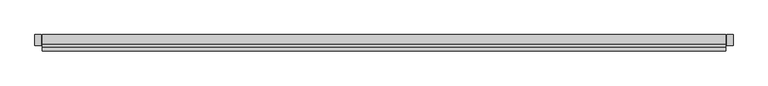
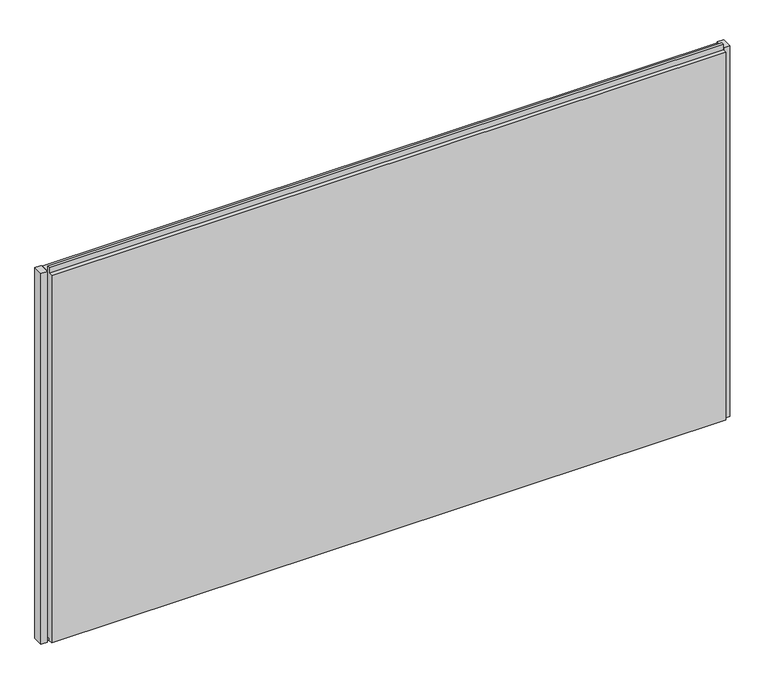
"""IFC4 building model written with IfcOpenShell, lengths in millimetres: plate geometry, Trimo_Qbiss Screen_Normal Panel-HORIZONTAL : HR - FB-F."""

import ifcopenshell
import ifcopenshell.guid

model = None  # the IFC model being written
_history = None  # IfcOwnerHistory: only IFC2X3 demands one
_inside = {}  # id of a spatial element -> (the spatial element, [elements in it])
_under = {}  # id of a project, library or spatial element -> (it, [spatial elements below it])
_declared = {}  # id of a project -> (the project, [libraries it declares])
_typed = {}  # id of a type object -> (the type object, [elements of that type])
_made_of = {}  # id of a material, layer set ... -> (it, [elements and type objects made of it])


def new_model(schema):
    """Start an empty IFC model of exactly this schema.

    Asked for "IFC4X3", IfcOpenShell would pick the latest addendum, in which some entities
    have other attributes; the version numbers below select the first issue.
    IFC2X3 requires an IfcOwnerHistory on every rooted entity: one is made here for all.
    """
    global model, _history
    if schema == "IFC4X3":
        model = ifcopenshell.file(schema_version=(4, 3, 0, 0))
    else:
        model = ifcopenshell.file(schema=schema)
    _inside.clear()
    _under.clear()
    _declared.clear()
    _typed.clear()
    _made_of.clear()
    _history = None
    if model.schema == "IFC2X3":
        org = make("IfcOrganization", Name="unknown")
        user = make(
            "IfcPersonAndOrganization",
            ThePerson=make("IfcPerson", FamilyName="unknown"),
            TheOrganization=org,
        )
        app = make(
            "IfcApplication",
            ApplicationDeveloper=org,
            Version="unknown",
            ApplicationFullName="unknown",
            ApplicationIdentifier="unknown",
        )
        _history = make(
            "IfcOwnerHistory",
            OwningUser=user,
            OwningApplication=app,
            ChangeAction="ADDED",
            CreationDate=0,
        )
    return model


def make(cls, **values):
    """One entity of the class cls with the attributes given. An attribute that is None is left unset."""
    return model.create_entity(
        cls, **{name: value for name, value in values.items() if value is not None}
    )


def rooted(cls, **values):
    """An entity with a GlobalId (a new one), such as an element, a storey or a relation."""
    return make(cls, GlobalId=ifcopenshell.guid.new(), OwnerHistory=_history, **values)


def si_unit(unit_type, name, prefix=None):
    """IfcSIUnit, for example si_unit("LENGTHUNIT", "METRE", prefix="MILLI")."""
    return make("IfcSIUnit", UnitType=unit_type, Prefix=prefix, Name=name)


def assignment(units):
    """IfcUnitAssignment: the units of a project."""
    return None if units is None else make("IfcUnitAssignment", Units=units)


def point(xyz):
    """IfcCartesianPoint."""
    return None if xyz is None else make("IfcCartesianPoint", Coordinates=xyz)


def direction(xyz):
    """IfcDirection."""
    return None if xyz is None else make("IfcDirection", DirectionRatios=xyz)


def frame(location, z_axis=None, x_axis=None):
    """IfcAxis2Placement3D, a coordinate frame: its origin and axes. An axis left out is left unset."""
    return make(
        "IfcAxis2Placement3D",
        Location=point(location),
        Axis=direction(z_axis),
        RefDirection=direction(x_axis),
    )


def origin():
    """The frame at (0, 0, 0) with its axes left unset."""
    return frame((0.0, 0.0, 0.0))


def place(relative_to, where):
    """IfcLocalPlacement: puts the frame where relative to a parent placement (None: the world)."""
    return make(
        "IfcLocalPlacement", PlacementRelTo=relative_to, RelativePlacement=where
    )


def context(
    kind, dimensions, precision=None, world=None, true_north=None, identifier=None
):
    """IfcGeometricRepresentationContext, for example the 3D "Model" context."""
    return make(
        "IfcGeometricRepresentationContext",
        ContextIdentifier=identifier,
        ContextType=kind,
        CoordinateSpaceDimension=dimensions,
        Precision=precision,
        WorldCoordinateSystem=world,
        TrueNorth=true_north,
    )


def project(units=None, contexts=None):
    """IfcProject with its units and contexts."""
    return rooted(
        "IfcProject",
        Name="project",
        RepresentationContexts=contexts,
        UnitsInContext=assignment(units),
    )


def spatial(cls, under=None, at=None, **own):
    """A site, building, storey or space (cls), placed at a placement, below another one or the project."""
    s = rooted(cls, ObjectPlacement=at, **own)
    if under is not None:
        _under.setdefault(under.id(), (under, []))[1].append(s)
    return s


def polyline(points):
    """IfcPolyline through the points."""
    return make("IfcPolyline", Points=[point(p) for p in points])


def outline(outer, holes=None, kind="AREA"):
    """IfcArbitraryClosedProfileDef: a profile drawn as a closed curve; with holes, ...WithVoids."""
    if holes is None:
        return make("IfcArbitraryClosedProfileDef", ProfileType=kind, OuterCurve=outer)
    return make(
        "IfcArbitraryProfileDefWithVoids",
        ProfileType=kind,
        OuterCurve=outer,
        InnerCurves=holes,
    )


def extrude(swept, where, along, depth):
    """IfcExtrudedAreaSolid: the profile swept, set in the frame where, extruded along a direction by depth."""
    return make(
        "IfcExtrudedAreaSolid",
        SweptArea=swept,
        Position=where,
        ExtrudedDirection=direction(along),
        Depth=depth,
    )


def shape(context_of_items, identifier, shape_type, items):
    """IfcShapeRepresentation: the items that make up one representation, for example the "Body"."""
    return make(
        "IfcShapeRepresentation",
        ContextOfItems=context_of_items,
        RepresentationIdentifier=identifier,
        RepresentationType=shape_type,
        Items=items,
    )


def source(mapping_origin, context_of_items, identifier, shape_type, items):
    """IfcRepresentationMap: a shape defined once, which mapped items show again and again."""
    return make(
        "IfcRepresentationMap",
        MappingOrigin=mapping_origin,
        MappedRepresentation=shape(context_of_items, identifier, shape_type, items),
    )


def transform(
    local_origin,
    x_axis=None,
    y_axis=None,
    z_axis=None,
    scale=None,
    scale2=None,
    scale3=None,
    uniform=True,
):
    """IfcCartesianTransformationOperator3D, or its non-uniform kind. x_axis, y_axis, z_axis: its Axis1, 2, 3."""
    if uniform:
        return make(
            "IfcCartesianTransformationOperator3D",
            Axis1=direction(x_axis),
            Axis2=direction(y_axis),
            LocalOrigin=point(local_origin),
            Scale=scale,
            Axis3=direction(z_axis),
        )
    return make(
        "IfcCartesianTransformationOperator3DnonUniform",
        Axis1=direction(x_axis),
        Axis2=direction(y_axis),
        LocalOrigin=point(local_origin),
        Scale=scale,
        Axis3=direction(z_axis),
        Scale2=scale2,
        Scale3=scale3,
    )


def mapped(mapping_source, mapping_target):
    """IfcMappedItem: shows the shape of a source again, moved by a transform."""
    return make(
        "IfcMappedItem", MappingSource=mapping_source, MappingTarget=mapping_target
    )


def made_of(thing, what):
    """Note that an element or type object is made of a material, layer set ...; save() writes the relation."""
    if what is not None:
        _made_of.setdefault(what.id(), (what, []))[1].append(thing)
    return thing


def element(
    cls,
    number,
    at=None,
    inside=None,
    cuts=None,
    type_object=None,
    material=None,
    context=None,
    identifier="Body",
    shape_type=None,
    held_by="IfcProductDefinitionShape",
    body=None,
    shapes=None,
    **own,
):
    """One element of the class cls, such as IfcWall. Its Tag is "e" and its number.

    at: its placement. inside: the storey or other place that contains it. cuts: it is an
    opening in that element (IfcRelVoidsElement). A single representation is given by context,
    identifier, shape_type and body (its items); several are given by shapes. held_by: the class
    of the entity that holds the representations. save() writes the other relations.
    """
    e = rooted(cls, Tag="e%d" % number, ObjectPlacement=at, **own)
    if body is not None:
        shapes = [shape(context, identifier, shape_type, body)]
    if shapes is not None:
        e.Representation = make(held_by, Representations=shapes)
    if inside is not None:
        _inside.setdefault(inside.id(), (inside, []))[1].append(e)
    if cuts is not None:
        rooted(
            "IfcRelVoidsElement", RelatingBuildingElement=cuts, RelatedOpeningElement=e
        )
    if type_object is not None:
        _typed.setdefault(type_object.id(), (type_object, []))[1].append(e)
    return made_of(e, material)


def aggregate(whole, parts):
    """IfcRelAggregates: a whole, such as a stair, and the parts it consists of."""
    return rooted("IfcRelAggregates", RelatingObject=whole, RelatedObjects=parts)


def save(model, path):
    """Write the relations noted so far, then the file.

    IfcRelAggregates (storeys below a building ...), IfcRelContainedInSpatialStructure (elements
    in a storey), IfcRelDefinesByType, IfcRelAssociatesMaterial and IfcRelDeclares: one each for
    every whole, place, type object, material and project.
    """
    for whole, parts in _under.values():
        aggregate(whole, parts)
    for where, things in _inside.values():
        rooted(
            "IfcRelContainedInSpatialStructure",
            RelatedElements=things,
            RelatingStructure=where,
        )
    for kind, things in _typed.values():
        rooted("IfcRelDefinesByType", RelatedObjects=things, RelatingType=kind)
    for what, things in _made_of.values():
        rooted("IfcRelAssociatesMaterial", RelatedObjects=things, RelatingMaterial=what)
    for by, libraries in _declared.values():
        rooted("IfcRelDeclares", RelatingContext=by, RelatedDefinitions=libraries)
    model.write(path)


def plate_468f01a4(model_context):
    return source(origin(), model_context, "Body", "SweptSolid", [
        extrude(outline(polyline([(-1034.25, 67.8978162), (-1053.25, 67.8978162), (-1053.25, 100.0), (-1034.25, 100.0), (-1034.25, 67.8978162)])), frame((0.0, 0.0, -1.0), z_axis=(0.0, 0.0, 1.0), x_axis=(1.0, 0.0, 0.0)), (0.0, 0.0, 1.0), 1200.0),
        extrude(outline(polyline([(1053.25, 67.8978162), (1034.25, 67.8978162), (1034.25, 100.0), (1053.25, 100.0), (1053.25, 67.8978162)])), frame((0.0, 0.0, -1.0), z_axis=(0.0, 0.0, 1.0), x_axis=(1.0, 0.0, 0.0)), (0.0, 0.0, 1.0), 1200.0),
        extrude(outline(polyline([(71.0, 1196.0), (100.0, 1196.0), (100.0, 0.0), (72.0, 0.0), (72.0, 15.5), (62.0, 15.5), (62.0, 7.0), (50.0, 7.0), (50.0, 1196.0), (63.0, 1196.0), (63.0, 1214.5), (71.0, 1214.5), (71.0, 1196.0)])), frame((-1031.25, 0.0, 0.0), z_axis=(1.0, 0.0, 0.0), x_axis=(0.0, 1.0, 0.0)), (0.0, 0.0, 1.0), 2062.5),
    ])


if __name__ == "__main__":
    model = new_model("IFC4")
    model_context = context("Model", 3, world=origin())
    ifc_project = project(units=[si_unit("LENGTHUNIT", "METRE", prefix="MILLI")], contexts=[model_context])
    site = spatial("IfcSite", under=ifc_project)
    building = spatial("IfcBuilding", under=site)
    placement = place(None, origin())
    plate_shape = plate_468f01a4(model_context)
    element("IfcPlate", 1, ObjectType="Trimo_Qbiss Screen_Normal Panel-HORIZONTAL : HR - FB-F", at=placement, inside=building, context=model_context, shape_type="MappedRepresentation", body=[
        mapped(plate_shape, transform((0.0, 0.0, 0.0), x_axis=(1.0, 0.0, 0.0), y_axis=(0.0, 1.0, 0.0), z_axis=(0.0, 0.0, 1.0))),
    ])
    save(model, "model.ifc")
